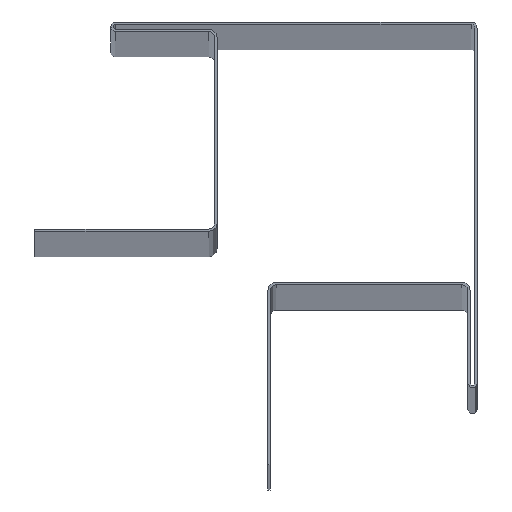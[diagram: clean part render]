
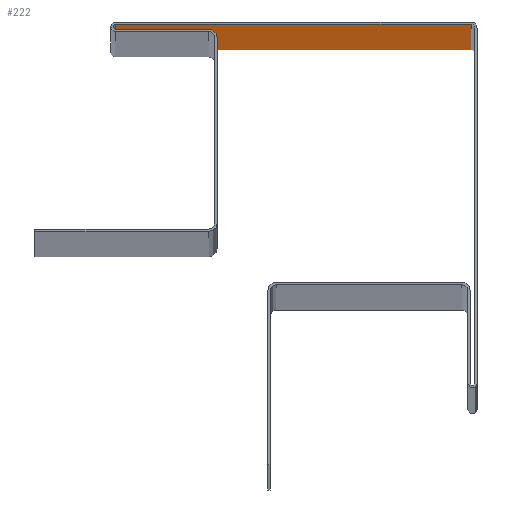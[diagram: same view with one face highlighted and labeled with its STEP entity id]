
A CAD part, top view. The second image highlights one B-rep face of the part: STEP entity #222.
In plain terms, the highlighted planar face has unit normal (0, -1, 0).
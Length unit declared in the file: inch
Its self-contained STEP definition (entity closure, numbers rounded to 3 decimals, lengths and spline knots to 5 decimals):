
#7 = LINE ( 'NONE', #268, #1316 ) ;
#40 = CARTESIAN_POINT ( 'NONE',  ( -2.975, -0.02, 0. ) ) ;
#51 = VECTOR ( 'NONE', #530, 39.37008 ) ;
#123 = EDGE_LOOP ( 'NONE', ( #871, #986, #354, #577 ) ) ;
#127 = VERTEX_POINT ( 'NONE', #407 ) ;
#215 = PLANE ( 'NONE',  #622 ) ;
#222 = ADVANCED_FACE ( 'NONE', ( #489 ), #215, .T. ) ;
#268 = CARTESIAN_POINT ( 'NONE',  ( -0.05, -0.02, 120. ) ) ;
#316 = EDGE_CURVE ( 'NONE', #997, #932, #865, .T. ) ;
#354 = ORIENTED_EDGE ( 'NONE', *, *, #1045, .T. ) ;
#405 = DIRECTION ( 'NONE',  ( 0., 0., -1. ) ) ;
#407 = CARTESIAN_POINT ( 'NONE',  ( -0.05, -0.02, 0. ) ) ;
#460 = EDGE_CURVE ( 'NONE', #127, #932, #1153, .T. ) ;
#489 = FACE_OUTER_BOUND ( 'NONE', #123, .T. ) ;
#515 = CARTESIAN_POINT ( 'NONE',  ( -2.975, -0.02, 0. ) ) ;
#530 = DIRECTION ( 'NONE',  ( -1., 0., 0. ) ) ;
#577 = ORIENTED_EDGE ( 'NONE', *, *, #316, .T. ) ;
#622 = AXIS2_PLACEMENT_3D ( 'NONE', #1042, #937, #1182 ) ;
#699 = CARTESIAN_POINT ( 'NONE',  ( -2.975, -0.02, 120. ) ) ;
#825 = VECTOR ( 'NONE', #405, 39.37008 ) ;
#865 = LINE ( 'NONE', #1222, #825 ) ;
#871 = ORIENTED_EDGE ( 'NONE', *, *, #460, .F. ) ;
#882 = DIRECTION ( 'NONE',  ( 0., 0., -1. ) ) ;
#932 = VERTEX_POINT ( 'NONE', #515 ) ;
#937 = DIRECTION ( 'NONE',  ( 0., -1., 0. ) ) ;
#986 = ORIENTED_EDGE ( 'NONE', *, *, #1305, .F. ) ;
#997 = VERTEX_POINT ( 'NONE', #1028 ) ;
#1018 = DIRECTION ( 'NONE',  ( -1., 0., 0. ) ) ;
#1028 = CARTESIAN_POINT ( 'NONE',  ( -2.975, -0.02, 120. ) ) ;
#1035 = LINE ( 'NONE', #699, #1245 ) ;
#1042 = CARTESIAN_POINT ( 'NONE',  ( -2.975, -0.02, 120. ) ) ;
#1045 = EDGE_CURVE ( 'NONE', #1180, #997, #1035, .T. ) ;
#1153 = LINE ( 'NONE', #40, #51 ) ;
#1180 = VERTEX_POINT ( 'NONE', #1252 ) ;
#1182 = DIRECTION ( 'NONE',  ( 1., 0., 0. ) ) ;
#1222 = CARTESIAN_POINT ( 'NONE',  ( -2.975, -0.02, 120. ) ) ;
#1245 = VECTOR ( 'NONE', #1018, 39.37008 ) ;
#1252 = CARTESIAN_POINT ( 'NONE',  ( -0.05, -0.02, 120. ) ) ;
#1305 = EDGE_CURVE ( 'NONE', #1180, #127, #7, .T. ) ;
#1316 = VECTOR ( 'NONE', #882, 39.37008 ) ;
